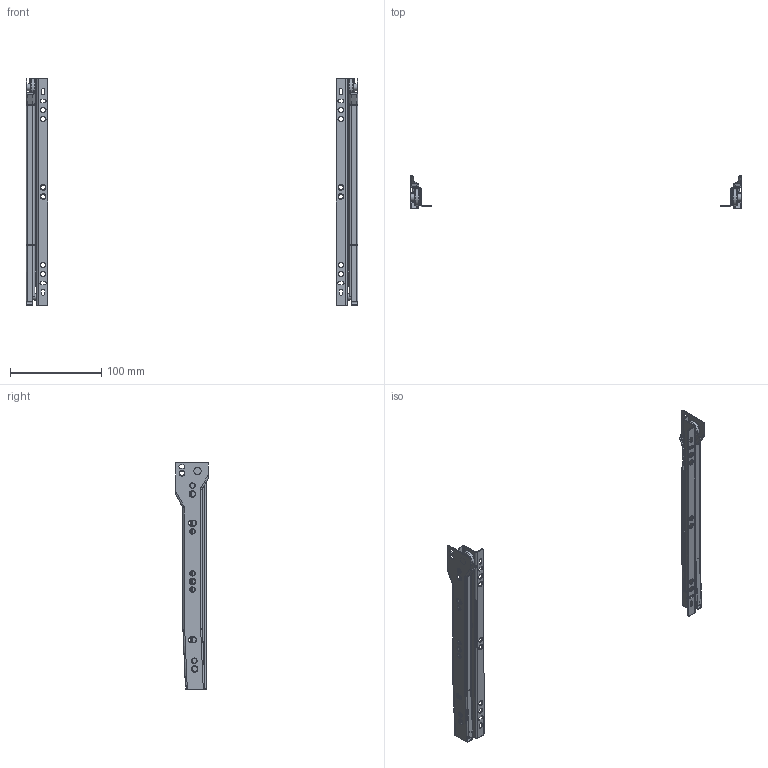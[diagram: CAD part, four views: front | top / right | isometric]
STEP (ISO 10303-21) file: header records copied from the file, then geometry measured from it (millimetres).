
FILE_DESCRIPTION(/* description */ (''),/* implementation_level */ '2;1');
FILE_NAME(/* name */ 'D:\$Workingspace\Designs\Katalog\Cadsoft\GTV Prowadnice\Prowadnice GTV_bryły 3D\PR-0B-250-10.stp',/* time_stamp */ '2016-11-22T15:14:10+01:00',/* author */ ('tomaszw'),/* organization */ (''),/* preprocessor_version */ 'ST-DEVELOPER v16.1',/* originating_system */ 'Autodesk Inventor 2016',/* authorisation */ '');
FILE_SCHEMA (('AUTOMOTIVE_DESIGN { 1 0 10303 214 3 1 1 }'));
Length unit declared in the file: millimetre
Products named in the file (5): PR-0B-250-10_CL; PR-0B-250-10_CR; PR-0B-250-10_DL; PR-0B-250-10_DR; PR-0B
Assembly tree (4 placements, depth 2):
  PR-0B
    PR-0B-250-10_CL
    PR-0B-250-10_CR
    PR-0B-250-10_DL
    PR-0B-250-10_DR
Bounding box: 364 x 36 x 250.03 mm (x, y, z)
Volume: 38374.4 mm3; surface area: 77710.8 mm2
Topology: 4 solids, 4 shells, 408 faces, 1020 edges, 632 vertices
Faces by surface type: cylinder 176, plane 154, cone 42, torus 28, sphere 8
Full cylindrical faces by diameter (mm): 5 x6, 5.2 x14, 5.4 x8, 6.2 x6, 7 x4, 8 x4, 18.5 x4
Entity records: 12472 total; most frequent: DIRECTION 2156, CARTESIAN_POINT 2133, ORIENTED_EDGE 1848, EDGE_CURVE 924, AXIS2_PLACEMENT_3D 823, VERTEX_POINT 624, EDGE_LOOP 604, LINE 510
